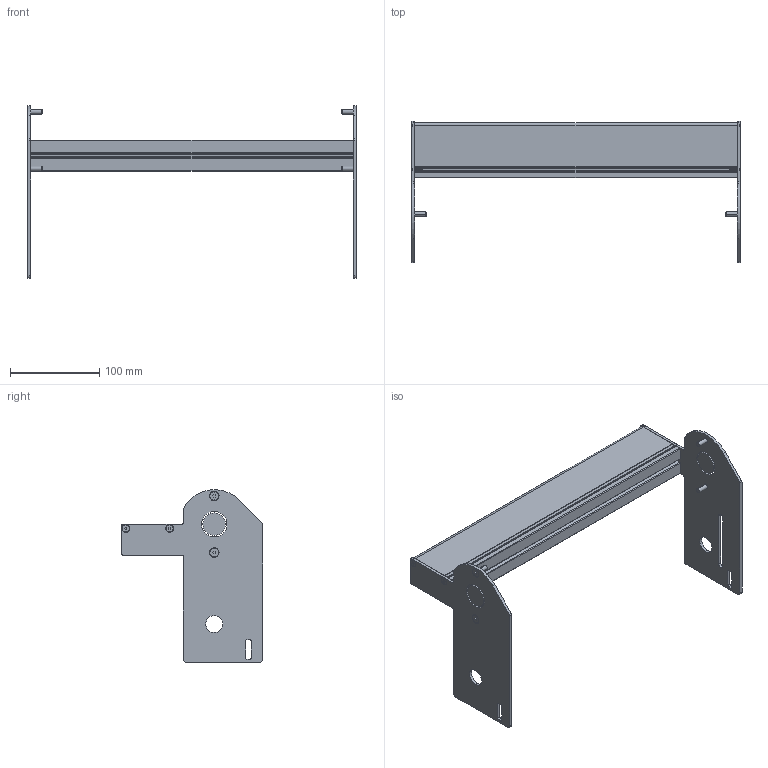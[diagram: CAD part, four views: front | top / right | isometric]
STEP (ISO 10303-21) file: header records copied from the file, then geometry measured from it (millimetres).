
FILE_DESCRIPTION((''),'2;1');
FILE_NAME('350712-14_ASM','2023-03-22T',('jenni.wallner'),(''),'PRO/ENGINEER BY PARAMETRIC TECHNOLOGY CORPORATION, 2012420','PRO/ENGINEER BY PARAMETRIC TECHNOLOGY CORPORATION, 2012420','');
FILE_SCHEMA(('CONFIG_CONTROL_DESIGN'));
Length unit declared in the file: inch
Products named in the file (6): 350669-14; 350667; 350668; 930412M; 930516M; 350712-14_ASM
Assembly tree (11 placements, depth 2):
  350712-14_ASM
    350669-14
    350667
    350668
    930412M  x4
    930516M  x4
Bounding box: 367.94 x 158.09 x 193.27 mm (x, y, z)
Volume: 398792.7 mm3; surface area: 263952.8 mm2
Topology: 11 solids, 11 shells, 334 faces, 872 edges, 568 vertices
Faces by surface type: plane 150, cylinder 136, cone 48
Entity records: 7775 total; most frequent: DIRECTION 1396, CARTESIAN_POINT 1323, ORIENTED_EDGE 1288, EDGE_CURVE 644, AXIS2_PLACEMENT_3D 505, VERTEX_POINT 424, VECTOR 386, LINE 386
